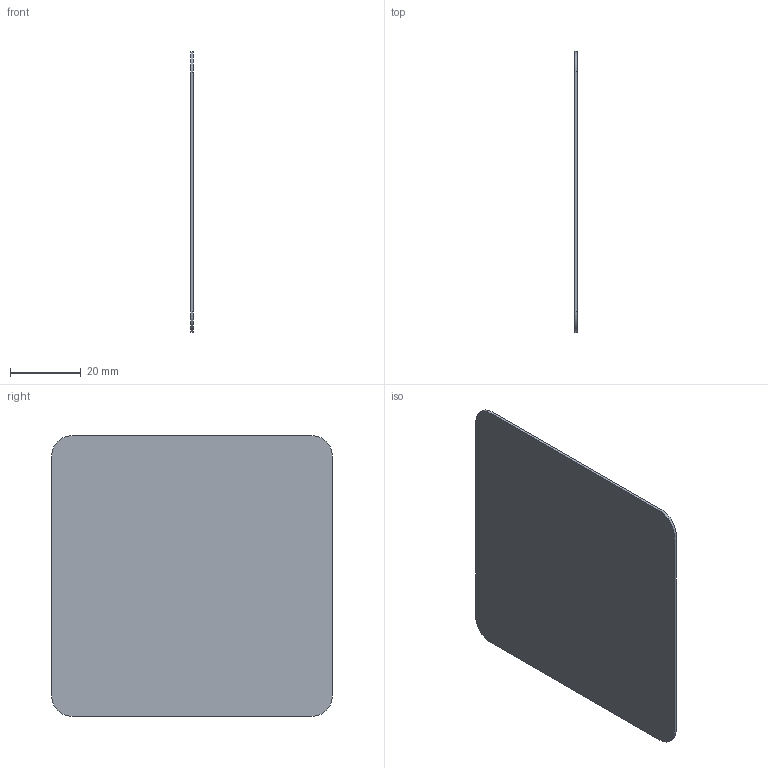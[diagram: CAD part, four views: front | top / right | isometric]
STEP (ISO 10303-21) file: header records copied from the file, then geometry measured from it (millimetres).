
FILE_DESCRIPTION(('Open CASCADE Model'),'2;1');
FILE_NAME('Open CASCADE Shape Model','2026-10-07T22:00:03',('Author'),( 'Open CASCADE'),'Open CASCADE STEP processor 7.9','Open CASCADE 7.9' ,'Unknown');
FILE_SCHEMA(('AUTOMOTIVE_DESIGN { 1 0 10303 214 1 1 1 1 }'));
Length unit declared in the file: millimetre
Products named in the file (1): Open CASCADE STEP translator 7.9 6
Bounding box: 0.8 x 79.6 x 79.6 mm (x, y, z)
Volume: 5045.8 mm3; surface area: 12861.3 mm2
Topology: 1 solids, 1 shells, 10 faces, 24 edges, 16 vertices
Faces by surface type: plane 6, cylinder 4
Entity records: 624 total; most frequent: CARTESIAN_POINT 111, DIRECTION 100, LINE 56, VECTOR 56, ORIENTED_EDGE 48, PCURVE 48, DEFINITIONAL_REPRESENTATION 48, EDGE_CURVE 24
